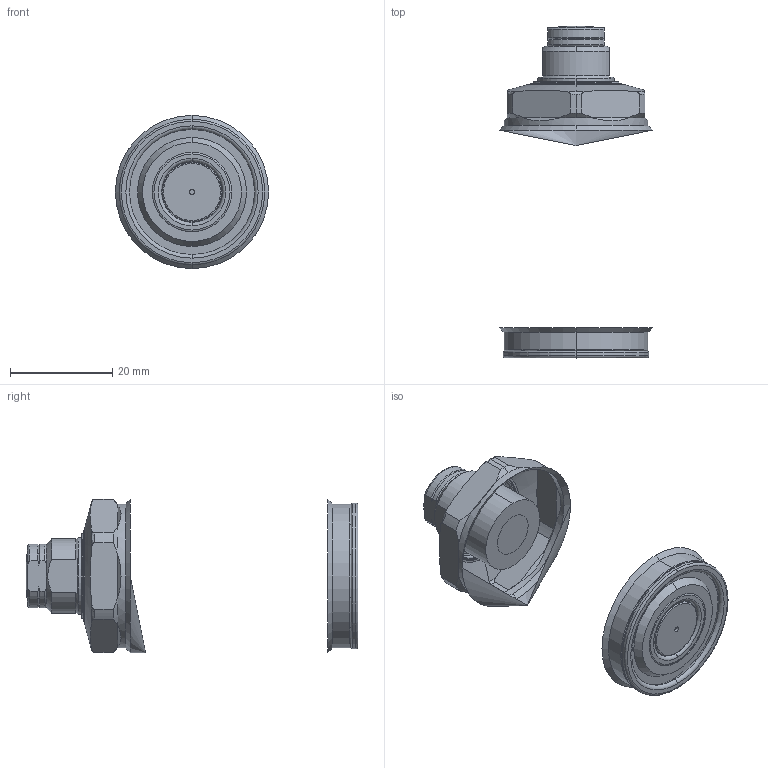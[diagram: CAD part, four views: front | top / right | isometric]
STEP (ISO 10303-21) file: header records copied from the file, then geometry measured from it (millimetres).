
FILE_DESCRIPTION(/* description */ (''),/* implementation_level */ '2;1');
FILE_NAME(/* name */ 'GSC03.stp',/* time_stamp */ '2025-01-10T08:59:51+08:00',/* author */ (''),/* organization */ (''),/* preprocessor_version */ 'ST-DEVELOPER v16.7',/* originating_system */ 'SIEMENS PLM Software NX 12.0',/* authorisation */ '');
FILE_SCHEMA (('AUTOMOTIVE_DESIGN { 1 0 10303 214 3 1 1 1 }'));
Length unit declared in the file: millimetre
Products named in the file (8): TNC0403_ContactBolt_M10; AS010; GSC03-04; GSC03-03; GSC03-02; GSC03-01; GSC03-05; GSC03_stp
Assembly tree (7 placements, depth 3):
  GSC03_stp
    GSC03-01
    GSC03-02
    GSC03-03
    GSC03-04
    GSC03-05
      AS010
      TNC0403_ContactBolt_M10
Bounding box: 30 x 65 x 30 mm (x, y, z)
Volume: 7242.5 mm3; surface area: 6247.5 mm2
Topology: 6 solids, 7 shells, 172 faces, 380 edges, 230 vertices
Faces by surface type: cylinder 52, torus 47, plane 37, cone 34, sphere 2
Full cylindrical faces by diameter (mm): 28.2 x1, 30 x2
Entity records: 5241 total; most frequent: CARTESIAN_POINT 1146, DIRECTION 919, ORIENTED_EDGE 764, AXIS2_PLACEMENT_3D 410, EDGE_CURVE 382, VERTEX_POINT 233, CIRCLE 225, EDGE_LOOP 189
